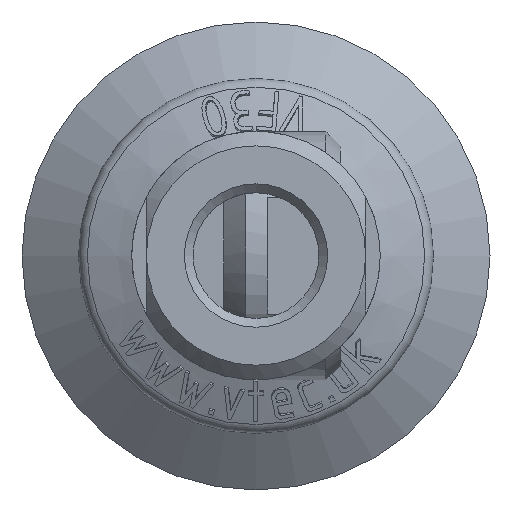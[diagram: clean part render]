
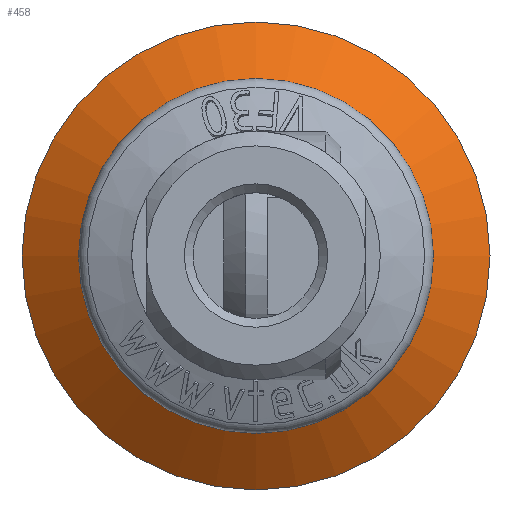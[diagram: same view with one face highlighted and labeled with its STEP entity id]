
A CAD part, top view. The second image highlights one B-rep face of the part: STEP entity #458.
In plain terms, the highlighted conical face has half-angle 53.66 degrees and reference radius 12.136 mm.
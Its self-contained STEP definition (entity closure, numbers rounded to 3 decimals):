
#458 = ADVANCED_FACE( '', ( #945, #946 ), #947, .T. );
#945 = FACE_OUTER_BOUND( '', #3288, .T. );
#946 = FACE_BOUND( '', #3289, .T. );
#947 = CONICAL_SURFACE( '', #3290, 12.136, 0.937 );
#3288 = EDGE_LOOP( '', ( #6255 ) );
#3289 = EDGE_LOOP( '', ( #6256 ) );
#3290 = AXIS2_PLACEMENT_3D( '', #6257, #6258, #6259 );
#6255 = ORIENTED_EDGE( '', *, *, #7434, .T. );
#6256 = ORIENTED_EDGE( '', *, *, #7435, .F. );
#6257 = CARTESIAN_POINT( '', ( 0., 0., -2.158 ) );
#6258 = DIRECTION( '', ( 0., 0., -1. ) );
#6259 = DIRECTION( '', ( -1., 0., 0. ) );
#7434 = EDGE_CURVE( '', #8255, #8255, #8256, .F. );
#7435 = EDGE_CURVE( '', #8257, #8257, #8258, .T. );
#8255 = VERTEX_POINT( '', #10604 );
#8256 = CIRCLE( '', #10605, 16. );
#8257 = VERTEX_POINT( '', #10606 );
#8258 = CIRCLE( '', #10607, 12.136 );
#10604 = CARTESIAN_POINT( '', ( -16., 0., -5. ) );
#10605 = AXIS2_PLACEMENT_3D( '', #11250, #11251, #11252 );
#10606 = CARTESIAN_POINT( '', ( 12.136, 0., -2.158 ) );
#10607 = AXIS2_PLACEMENT_3D( '', #11253, #11254, #11255 );
#11250 = CARTESIAN_POINT( '', ( 0., 0., -5. ) );
#11251 = DIRECTION( '', ( 0., 0., -1. ) );
#11252 = DIRECTION( '', ( -1., 0., 0. ) );
#11253 = CARTESIAN_POINT( '', ( 0., 0., -2.158 ) );
#11254 = DIRECTION( '', ( 0., 0., 1. ) );
#11255 = DIRECTION( '', ( 1., 0., 0. ) );
